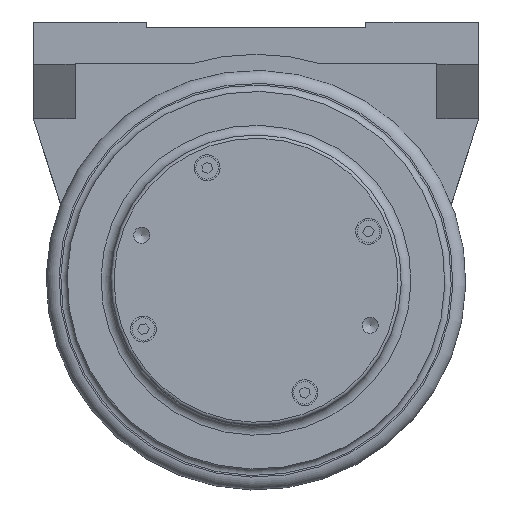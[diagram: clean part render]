
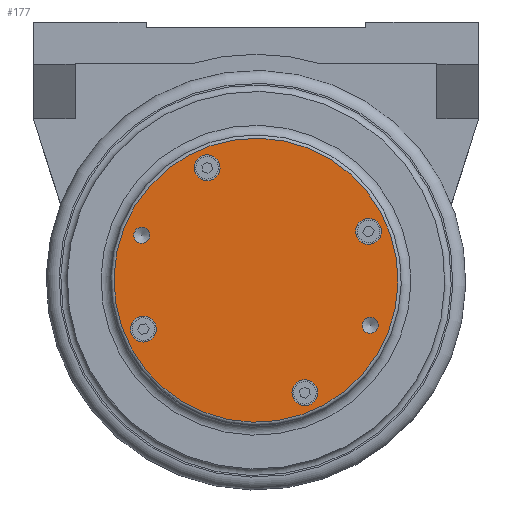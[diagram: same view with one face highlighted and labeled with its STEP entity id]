
A CAD part, front view. The second image highlights one B-rep face of the part: STEP entity #177.
In plain terms, the highlighted planar face has unit normal (0, -1, 0).
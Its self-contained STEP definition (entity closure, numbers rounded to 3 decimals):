
#177=ADVANCED_FACE('',(#1310,#1311,#1312,#1313,#1314,#1315,#1316),#1317,.T.);
#1310=FACE_BOUND('',#5385,.T.);
#1311=FACE_BOUND('',#5386,.T.);
#1312=FACE_BOUND('',#5387,.T.);
#1313=FACE_BOUND('',#5388,.T.);
#1314=FACE_BOUND('',#5389,.T.);
#1315=FACE_BOUND('',#5390,.T.);
#1316=FACE_OUTER_BOUND('',#5391,.T.);
#1317=PLANE('',#5392);
#5385=EDGE_LOOP('',(#14623));
#5386=EDGE_LOOP('',(#14624));
#5387=EDGE_LOOP('',(#14625));
#5388=EDGE_LOOP('',(#14626));
#5389=EDGE_LOOP('',(#14627));
#5390=EDGE_LOOP('',(#14628));
#5391=EDGE_LOOP('',(#14629));
#5392=AXIS2_PLACEMENT_3D('',#14630,#14631,#14632);
#14623=ORIENTED_EDGE('',*,*,#22383,.T.);
#14624=ORIENTED_EDGE('',*,*,#22384,.F.);
#14625=ORIENTED_EDGE('',*,*,#22385,.T.);
#14626=ORIENTED_EDGE('',*,*,#22386,.T.);
#14627=ORIENTED_EDGE('',*,*,#22387,.T.);
#14628=ORIENTED_EDGE('',*,*,#22388,.T.);
#14629=ORIENTED_EDGE('',*,*,#22389,.T.);
#14630=CARTESIAN_POINT('',(0.,-83.5,0.));
#14631=DIRECTION('',(0.,-1.0,0.));
#14632=DIRECTION('',(-1.0,0.,0.));
#22383=EDGE_CURVE('',#25297,#25297,#25298,.T.);
#22384=EDGE_CURVE('',#25299,#25299,#25300,.T.);
#22385=EDGE_CURVE('',#25301,#25301,#25302,.T.);
#22386=EDGE_CURVE('',#25303,#25303,#25304,.T.);
#22387=EDGE_CURVE('',#25305,#25305,#25306,.T.);
#22388=EDGE_CURVE('',#25307,#25307,#25308,.T.);
#22389=EDGE_CURVE('',#25309,#25309,#25310,.T.);
#25297=VERTEX_POINT('',#30441);
#25298=CIRCLE('',#30442,2.5);
#25299=VERTEX_POINT('',#30443);
#25300=CIRCLE('',#30444,2.5);
#25301=VERTEX_POINT('',#30445);
#25302=CIRCLE('',#30446,4.0);
#25303=VERTEX_POINT('',#30447);
#25304=CIRCLE('',#30448,4.);
#25305=VERTEX_POINT('',#30449);
#25306=CIRCLE('',#30450,4.0);
#25307=VERTEX_POINT('',#30451);
#25308=CIRCLE('',#30452,4.);
#25309=VERTEX_POINT('',#30453);
#25310=CIRCLE('',#30454,44.0);
#30441=CARTESIAN_POINT('',(-34.431,-83.5,16.271));
#30442=AXIS2_PLACEMENT_3D('',#38254,#38255,#38256);
#30443=CARTESIAN_POINT('',(36.266,-83.5,-11.62));
#30444=AXIS2_PLACEMENT_3D('',#38257,#38258,#38259);
#30445=CARTESIAN_POINT('',(-13.667,-83.5,38.577));
#30446=AXIS2_PLACEMENT_3D('',#38260,#38261,#38262);
#30447=CARTESIAN_POINT('',(-38.577,-83.5,-13.667));
#30448=AXIS2_PLACEMENT_3D('',#38263,#38264,#38265);
#30449=CARTESIAN_POINT('',(13.667,-83.5,-38.577));
#30450=AXIS2_PLACEMENT_3D('',#38266,#38267,#38268);
#30451=CARTESIAN_POINT('',(38.577,-83.5,13.667));
#30452=AXIS2_PLACEMENT_3D('',#38269,#38270,#38271);
#30453=CARTESIAN_POINT('',(16.147,-83.5,40.93));
#30454=AXIS2_PLACEMENT_3D('',#38272,#38273,#38274);
#38254=CARTESIAN_POINT('',(-35.349,-83.5,13.945));
#38255=DIRECTION('',(0.0,1.0,0.));
#38256=DIRECTION('',(0.367,0.,0.93));
#38257=CARTESIAN_POINT('',(35.349,-83.5,-13.945));
#38258=DIRECTION('',(0.0,-1.0,0.));
#38259=DIRECTION('',(0.367,0.,0.93));
#38260=CARTESIAN_POINT('',(-15.134,-83.5,34.856));
#38261=DIRECTION('',(0.,1.0,0.));
#38262=DIRECTION('',(0.367,0.,0.93));
#38263=CARTESIAN_POINT('',(-34.856,-83.5,-15.134));
#38264=DIRECTION('',(0.,1.0,0.));
#38265=DIRECTION('',(-0.93,0.,0.367));
#38266=CARTESIAN_POINT('',(15.134,-83.5,-34.856));
#38267=DIRECTION('',(0.,1.0,0.));
#38268=DIRECTION('',(-0.367,0.,-0.93));
#38269=CARTESIAN_POINT('',(34.856,-83.5,15.134));
#38270=DIRECTION('',(0.,1.0,0.));
#38271=DIRECTION('',(0.93,0.,-0.367));
#38272=CARTESIAN_POINT('',(0.,-83.5,0.));
#38273=DIRECTION('',(0.,-1.0,0.));
#38274=DIRECTION('',(0.367,0.,0.93));
